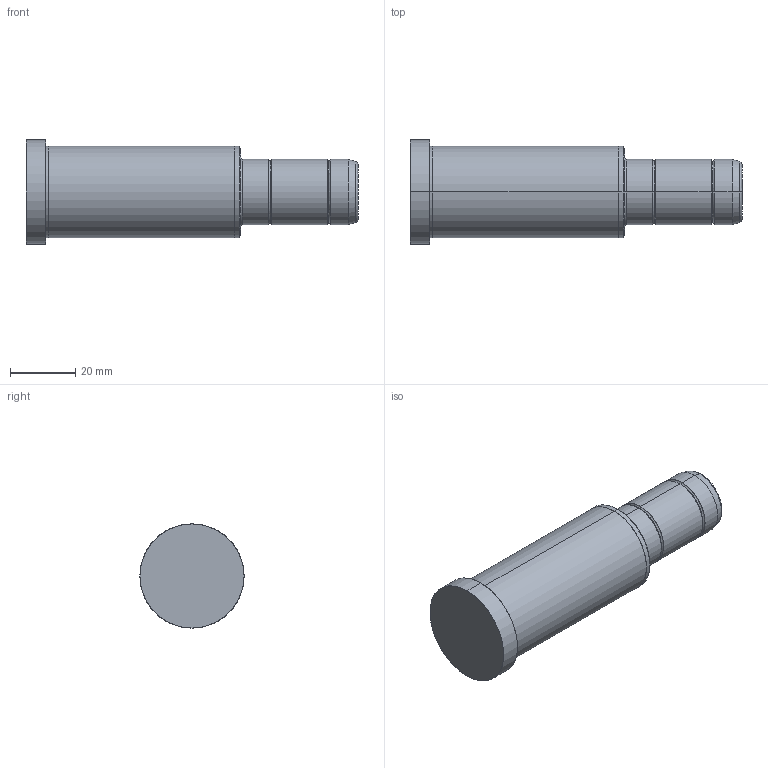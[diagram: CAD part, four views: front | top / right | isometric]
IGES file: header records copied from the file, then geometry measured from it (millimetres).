
Start section: SolidWorks IGES file using analytic representation for surfaces
Global section: file name: C:\Documents and Settings\kalite-mail\Desktop\IGS\D02\20\D02 - 20x66x36.IGS; native system: SolidWorks 2008; preprocessor: SolidWorks 2008; author: kalite-mail; date: 080616.163305; units: millimetre
Bounding box: 102 x 32 x 32 mm (x, y, z)
Surface area: 9719.8 mm2 (no closed solid volume)
Topology: 0 solids, 0 shells, 36 faces, 664 edges, 664 vertices
Faces by surface type: bspline 18, revolution 18
